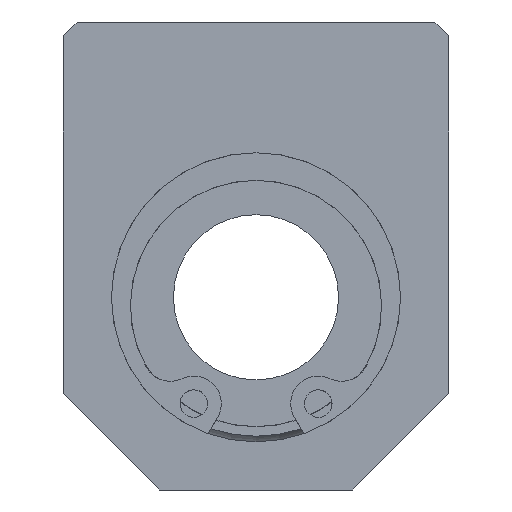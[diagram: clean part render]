
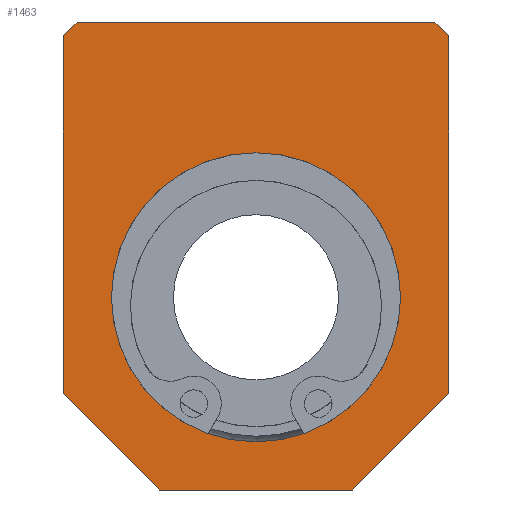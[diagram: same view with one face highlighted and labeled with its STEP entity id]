
A CAD part, left-side view. The second image highlights one B-rep face of the part: STEP entity #1463.
In plain terms, the highlighted planar face has unit normal (-1, 0, 0).
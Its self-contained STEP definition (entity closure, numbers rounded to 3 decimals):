
#1365=CARTESIAN_POINT('',(0.0,-13.,20.));
#1366=VERTEX_POINT('',#1365);
#1373=CARTESIAN_POINT('',(0.0,-14.,19.));
#1374=VERTEX_POINT('',#1373);
#1375=CARTESIAN_POINT('',(0.0,-13.,20.));
#1376=DIRECTION('',(0.0,-0.707,-0.707));
#1377=VECTOR('',#1376,1.414);
#1378=LINE('',#1375,#1377);
#1379=EDGE_CURVE('',#1366,#1374,#1378,.T.);
#1390=CARTESIAN_POINT('',(0.0,0.,3.));
#1391=DIRECTION('',(1.0,0.0,0.0));
#1392=DIRECTION('',(0.0,0.0,-1.0));
#1393=AXIS2_PLACEMENT_3D('',#1390,#1391,#1392);
#1394=PLANE('',#1393);
#1395=ORIENTED_EDGE('',*,*,#1379,.F.);
#1396=CARTESIAN_POINT('',(0.0,13.,20.));
#1397=VERTEX_POINT('',#1396);
#1398=CARTESIAN_POINT('',(0.0,-13.,20.));
#1399=DIRECTION('',(0.0,1.0,0.0));
#1400=VECTOR('',#1399,26.);
#1401=LINE('',#1398,#1400);
#1402=EDGE_CURVE('',#1366,#1397,#1401,.T.);
#1403=ORIENTED_EDGE('',*,*,#1402,.T.);
#1404=CARTESIAN_POINT('',(0.0,14.,19.));
#1405=VERTEX_POINT('',#1404);
#1406=CARTESIAN_POINT('',(0.0,14.,19.));
#1407=DIRECTION('',(0.0,-0.707,0.707));
#1408=VECTOR('',#1407,1.414);
#1409=LINE('',#1406,#1408);
#1410=EDGE_CURVE('',#1405,#1397,#1409,.T.);
#1411=ORIENTED_EDGE('',*,*,#1410,.F.);
#1412=CARTESIAN_POINT('',(0.0,14.,-7.));
#1413=VERTEX_POINT('',#1412);
#1414=CARTESIAN_POINT('',(0.0,14.,19.));
#1415=DIRECTION('',(0.0,0.0,-1.0));
#1416=VECTOR('',#1415,26.0);
#1417=LINE('',#1414,#1416);
#1418=EDGE_CURVE('',#1405,#1413,#1417,.T.);
#1419=ORIENTED_EDGE('',*,*,#1418,.T.);
#1420=CARTESIAN_POINT('',(0.0,7.,-14.));
#1421=VERTEX_POINT('',#1420);
#1422=CARTESIAN_POINT('',(0.0,7.,-14.));
#1423=DIRECTION('',(0.0,0.707,0.707));
#1424=VECTOR('',#1423,9.899);
#1425=LINE('',#1422,#1424);
#1426=EDGE_CURVE('',#1421,#1413,#1425,.T.);
#1427=ORIENTED_EDGE('',*,*,#1426,.F.);
#1428=CARTESIAN_POINT('',(0.0,-7.,-14.));
#1429=VERTEX_POINT('',#1428);
#1430=CARTESIAN_POINT('',(0.0,7.,-14.));
#1431=DIRECTION('',(0.0,-1.0,0.0));
#1432=VECTOR('',#1431,14.);
#1433=LINE('',#1430,#1432);
#1434=EDGE_CURVE('',#1421,#1429,#1433,.T.);
#1435=ORIENTED_EDGE('',*,*,#1434,.T.);
#1436=CARTESIAN_POINT('',(0.0,-14.,-7.));
#1437=VERTEX_POINT('',#1436);
#1438=CARTESIAN_POINT('',(0.0,-14.,-7.));
#1439=DIRECTION('',(0.0,0.707,-0.707));
#1440=VECTOR('',#1439,9.899);
#1441=LINE('',#1438,#1440);
#1442=EDGE_CURVE('',#1437,#1429,#1441,.T.);
#1443=ORIENTED_EDGE('',*,*,#1442,.F.);
#1444=CARTESIAN_POINT('',(0.0,-14.,-7.));
#1445=DIRECTION('',(0.0,0.0,1.0));
#1446=VECTOR('',#1445,26.0);
#1447=LINE('',#1444,#1446);
#1448=EDGE_CURVE('',#1437,#1374,#1447,.T.);
#1449=ORIENTED_EDGE('',*,*,#1448,.T.);
#1450=EDGE_LOOP('',(#1395,#1403,#1411,#1419,#1427,#1435,#1443,#1449));
#1451=FACE_OUTER_BOUND('',#1450,.T.);
#1452=CARTESIAN_POINT('',(0.0,10.5,0.));
#1453=VERTEX_POINT('',#1452);
#1454=CARTESIAN_POINT('',(0.0,0.0,0.0));
#1455=DIRECTION('',(1.0,0.0,0.0));
#1456=DIRECTION('',(0.0,-1.0,0.0));
#1457=AXIS2_PLACEMENT_3D('',#1454,#1455,#1456);
#1458=CIRCLE('',#1457,10.5);
#1459=EDGE_CURVE('',#1453,#1453,#1458,.T.);
#1460=ORIENTED_EDGE('',*,*,#1459,.T.);
#1461=EDGE_LOOP('',(#1460));
#1462=FACE_BOUND('',#1461,.T.);
#1463=ADVANCED_FACE('',(#1451,#1462),#1394,.F.);
